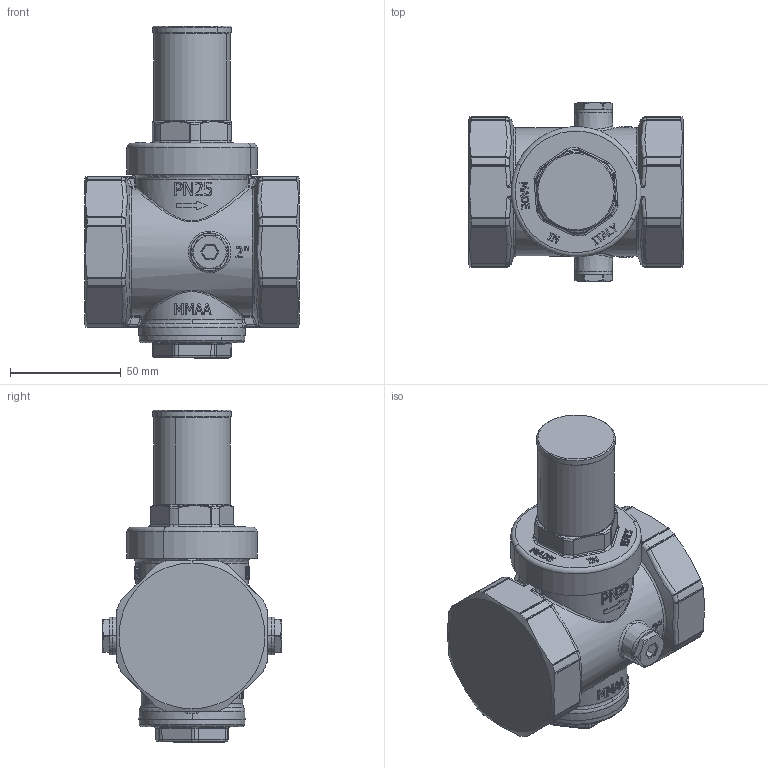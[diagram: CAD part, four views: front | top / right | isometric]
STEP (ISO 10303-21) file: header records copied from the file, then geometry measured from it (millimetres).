
FILE_DESCRIPTION (( 'STEP AP214' ), '1' );
FILE_NAME ('BPR406_standardowy_reduktor_cisnienia_9040610_0_3D_AFRISO1.STEP', '2025-06-04T09:43:24', ( '' ), ( '' ), 'SwSTEP 2.0', 'SolidWorks 2024', '' );
FILE_SCHEMA (( 'AUTOMOTIVE_DESIGN' ));
Length unit declared in the file: millimetre
Products named in the file (6): 3001.548.02; 3301.425.02; 7001.235.25; 4401.008.00; 3101.525.00; BPR406_standardowy_reduktor_cisnienia_9040610_0_3D_AFRISO1
Assembly tree (6 placements, depth 2):
  BPR406_standardowy_reduktor_cisnienia_9040610_0_3D_AFRISO1
    3001.548.02
    3101.525.00
    3301.425.02
    4401.008.00  x2
    7001.235.25
Bounding box: 97 x 81 x 150.21 mm (x, y, z)
Volume: 487876.3 mm3; surface area: 59474.8 mm2
Topology: 6 solids, 6 shells, 1141 faces, 2904 edges, 1797 vertices
Faces by surface type: plane 424, cylinder 295, bspline 236, sphere 72, torus 62, cone 52
Entity records: 49014 total; most frequent: CARTESIAN_POINT 14677, ORIENTED_EDGE 5422, DIRECTION 4156, EDGE_CURVE 2711, VERTEX_POINT 1697, AXIS2_PLACEMENT_3D 1496, LINE 1164, VECTOR 1164
